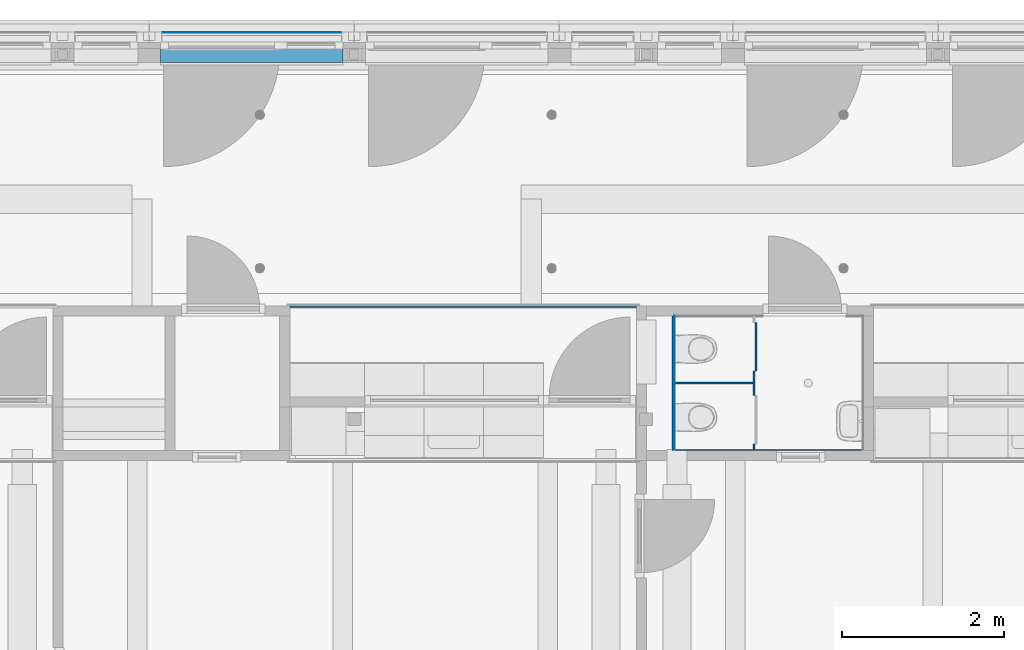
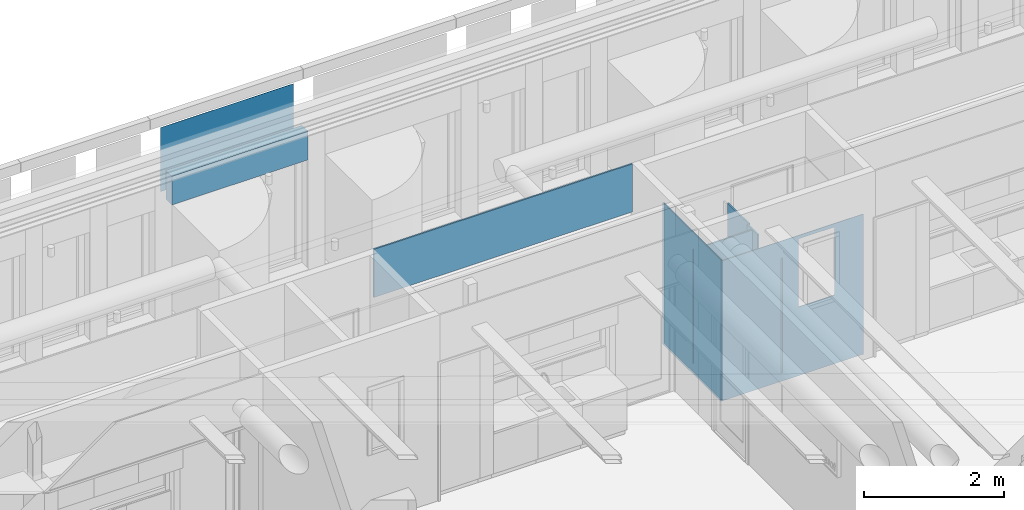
# One storey, part 50 of 128: 10 walls, 2 openings.
"""IFC2X3 building model written with IfcOpenShell, lengths in millimetres."""

from ifc_helpers import new_model, entity, si_unit, converted_unit, derived_unit, direction, frame, frame_2d, origin, origin_2d_with_axis, place, context, subcontext, project, spatial, rectangle, extrude, material, layer, layer_set, layer_usage, type_object, element, save


model = new_model("IFC2X3")

# Units and contexts
model_context = context("Model", 3, precision=0.01, world=origin(), true_north=direction((6.123031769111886e-17, 1.0)))
body_context = subcontext(model_context, "Body", "Model", "MODEL_VIEW")
ifc_project = project(units=[si_unit("LENGTHUNIT", "METRE", prefix="MILLI"), si_unit("AREAUNIT", "SQUARE_METRE"), si_unit("VOLUMEUNIT", "CUBIC_METRE"), converted_unit("PLANEANGLEUNIT", "DEGREE", entity("IfcRatioMeasure", 0.017453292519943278), si_unit("PLANEANGLEUNIT", "RADIAN"), dimensions=[0, 0, 0, 0, 0, 0, 0]), si_unit("MASSUNIT", "GRAM", prefix="KILO"), derived_unit("MASSDENSITYUNIT", [(si_unit("MASSUNIT", "GRAM", prefix="KILO"), 1), (si_unit("LENGTHUNIT", "METRE"), -3)]), derived_unit("IONCONCENTRATIONUNIT", [(si_unit("MASSUNIT", "GRAM", prefix="KILO"), 1), (si_unit("LENGTHUNIT", "METRE"), -3)]), derived_unit("MOMENTOFINERTIAUNIT", [(si_unit("LENGTHUNIT", "METRE"), 4)]), si_unit("TIMEUNIT", "SECOND"), si_unit("FREQUENCYUNIT", "HERTZ"), si_unit("THERMODYNAMICTEMPERATUREUNIT", "DEGREE_CELSIUS"), derived_unit("THERMALTRANSMITTANCEUNIT", [(si_unit("MASSUNIT", "GRAM", prefix="KILO"), 1), (si_unit("THERMODYNAMICTEMPERATUREUNIT", "KELVIN"), -1), (si_unit("TIMEUNIT", "SECOND"), -3)]), derived_unit("THERMALCONDUCTANCEUNIT", [(si_unit("MASSUNIT", "GRAM", prefix="KILO"), 1), (si_unit("THERMODYNAMICTEMPERATUREUNIT", "KELVIN"), -1), (si_unit("TIMEUNIT", "SECOND"), -3), (si_unit("LENGTHUNIT", "METRE"), 1)]), derived_unit("VOLUMETRICFLOWRATEUNIT", [(si_unit("LENGTHUNIT", "METRE"), 3), (si_unit("TIMEUNIT", "SECOND"), -1)]), derived_unit("MASSFLOWRATEUNIT", [(si_unit("MASSUNIT", "GRAM", prefix="KILO"), 1), (si_unit("TIMEUNIT", "SECOND"), -1)]), derived_unit("ROTATIONALFREQUENCYUNIT", [(si_unit("TIMEUNIT", "SECOND"), -1)]), si_unit("ELECTRICCURRENTUNIT", "AMPERE"), si_unit("ELECTRICVOLTAGEUNIT", "VOLT"), si_unit("POWERUNIT", "WATT"), si_unit("FORCEUNIT", "NEWTON", prefix="KILO"), si_unit("ILLUMINANCEUNIT", "LUX"), si_unit("LUMINOUSFLUXUNIT", "LUMEN"), si_unit("LUMINOUSINTENSITYUNIT", "CANDELA"), derived_unit("USERDEFINED", [(si_unit("MASSUNIT", "GRAM", prefix="KILO"), -1), (si_unit("LENGTHUNIT", "METRE"), -2), (si_unit("TIMEUNIT", "SECOND"), 3), (si_unit("LUMINOUSFLUXUNIT", "LUMEN"), 1)]), derived_unit("USERDEFINED", [(si_unit("MASSUNIT", "GRAM", prefix="KILO"), 1), (si_unit("TIMEUNIT", "SECOND"), -3), (si_unit("LENGTHUNIT", "METRE"), 3), (si_unit("ELECTRICCURRENTUNIT", "AMPERE"), -2)]), derived_unit("SOUNDPOWERUNIT", [(si_unit("MASSUNIT", "GRAM", prefix="KILO"), 1), (si_unit("TIMEUNIT", "SECOND"), -3), (si_unit("LENGTHUNIT", "METRE"), 2)]), derived_unit("SOUNDPRESSUREUNIT", [(si_unit("MASSUNIT", "GRAM", prefix="KILO"), 1), (si_unit("LENGTHUNIT", "METRE"), -1), (si_unit("TIMEUNIT", "SECOND"), -2)]), derived_unit("LINEARVELOCITYUNIT", [(si_unit("LENGTHUNIT", "METRE"), 1), (si_unit("TIMEUNIT", "SECOND"), -1)]), si_unit("PRESSUREUNIT", "PASCAL"), derived_unit("USERDEFINED", [(si_unit("MASSUNIT", "GRAM", prefix="KILO"), 1), (si_unit("LENGTHUNIT", "METRE"), -2), (si_unit("TIMEUNIT", "SECOND"), -2)]), derived_unit("LINEARFORCEUNIT", [(si_unit("MASSUNIT", "GRAM", prefix="KILO"), 1), (si_unit("TIMEUNIT", "SECOND"), -2)]), derived_unit("PLANARFORCEUNIT", [(si_unit("MASSUNIT", "GRAM", prefix="KILO"), 1), (si_unit("LENGTHUNIT", "METRE"), -1), (si_unit("TIMEUNIT", "SECOND"), -2)]), derived_unit("SPECIFICHEATCAPACITYUNIT", [(si_unit("THERMODYNAMICTEMPERATUREUNIT", "KELVIN"), -1), (si_unit("LENGTHUNIT", "METRE"), 2), (si_unit("TIMEUNIT", "SECOND"), -2)]), derived_unit("HEATINGVALUEUNIT", [(si_unit("LENGTHUNIT", "METRE"), 2), (si_unit("TIMEUNIT", "SECOND"), -2)]), derived_unit("VAPORPERMEABILITYUNIT", [(si_unit("LENGTHUNIT", "METRE"), -1), (si_unit("TIMEUNIT", "SECOND"), 1)]), derived_unit("DYNAMICVISCOSITYUNIT", [(si_unit("MASSUNIT", "GRAM", prefix="KILO"), 1), (si_unit("TIMEUNIT", "SECOND"), -1), (si_unit("LENGTHUNIT", "METRE"), -1)]), derived_unit("THERMALEXPANSIONCOEFFICIENTUNIT", [(si_unit("THERMODYNAMICTEMPERATUREUNIT", "KELVIN"), -1)]), derived_unit("MODULUSOFELASTICITYUNIT", [(si_unit("MASSUNIT", "GRAM", prefix="KILO"), 1), (si_unit("LENGTHUNIT", "METRE"), -1), (si_unit("TIMEUNIT", "SECOND"), -2)]), derived_unit("ISOTHERMALMOISTURECAPACITYUNIT", [(si_unit("LENGTHUNIT", "METRE"), 3), (si_unit("MASSUNIT", "GRAM", prefix="KILO"), -1)]), derived_unit("MOISTUREDIFFUSIVITYUNIT", [(si_unit("TIMEUNIT", "SECOND"), -1), (si_unit("LENGTHUNIT", "METRE"), 2)])], contexts=[model_context])

# Site, building, storey
site_placement = place(None, frame((0.0, 300.0, 0.0)))
site = spatial("IfcSite", under=ifc_project, at=site_placement, Name="<Kadastrale nummers>", CompositionType="ELEMENT")
building_placement = place(site_placement, origin())
building = spatial("IfcBuilding", under=site, at=building_placement, CompositionType="ELEMENT")
storey_placement = place(building_placement, frame((0.0, 0.0, 3560.0000331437)))
storey = spatial("IfcBuildingStorey", under=building, at=storey_placement, Name="01 eerste verdieping", CompositionType="ELEMENT", Elevation=3560.0000331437)

# Walls
ifc_material_1 = material(Name="ISR_Gips")
ifc_layer_1 = layer(ifc_material_1, 1.0)
ifc_material_2 = material(Name="ISR_Binnenwand")
ifc_layer_2 = layer(ifc_material_2, 23.0)
ifc_layer_3 = layer(ifc_material_1, 1.0)
ifc_layer_set_1 = layer_set([ifc_layer_1, ifc_layer_2, ifc_layer_3], Name="Basic Wall:22_DAT_binnenwand_25")
ifc_layer_usage_1 = layer_usage(ifc_layer_set_1, "AXIS2", "NEGATIVE", 12.499999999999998)
wall_type_1 = type_object("IfcWallType", Name="Basic Wall:22_DAT_binnenwand_25", PredefinedType="STANDARD", material=ifc_layer_set_1)
wall_1_placement = place(storey_placement, frame((20205.0, 46687.49999999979, 2490.000024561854)))
element("IfcWallStandardCase", 1, at=wall_1_placement, inside=storey, type_object=wall_type_1, material=ifc_layer_usage_1, Name="Basic Wall:22_DAT_binnenwand_25", ObjectType="Basic Wall:22_DAT_binnenwand_25", context=body_context, shape_type="SweptSolid", body=[
    extrude(rectangle(XDim=4274.999999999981, YDim=24.999999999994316, at=frame_2d((2137.4999999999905, -6.217248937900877e-14), x_axis=(-1.0, 0.0))), origin(), (0.0, 0.0, 1.0), 839.9999773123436),
])
ifc_layer_usage_2 = layer_usage(ifc_layer_set_1, "AXIS2", "POSITIVE", -12.499999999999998)
wall_2_placement = place(storey_placement, frame((24932.500000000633, 46575.0, 90.00000187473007), z_axis=(0.0, 0.0, 1.0), x_axis=(0.0, -1.0, 0.0)))
element("IfcWallStandardCase", 2, at=wall_2_placement, inside=storey, type_object=wall_type_1, material=ifc_layer_usage_2, Name="Basic Wall:22_DAT_binnenwand_25", ObjectType="Basic Wall:22_DAT_binnenwand_25", context=body_context, shape_type="SweptSolid", body=[
    extrude(rectangle(XDim=1659.9999999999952, YDim=25.00000000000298, at=frame_2d((829.9999999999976, -1.270095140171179e-13), x_axis=(-1.0, 0.0))), origin(), (0.0, 0.0, 1.0), 2470.0000226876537),
])
ifc_material_3 = material(Name="ISR_Kunststof_grijs")
ifc_layer_4 = layer(ifc_material_3, 25.0)
ifc_layer_set_2 = layer_set([ifc_layer_4], Name="Basic Wall:43_DAT_sanitairewand")
ifc_layer_usage_3 = layer_usage(ifc_layer_set_2, "AXIS2", "POSITIVE", -12.500000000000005)
wall_type_2 = type_object("IfcWallType", Name="Basic Wall:43_DAT_sanitairewand", PredefinedType="STANDARD", material=ifc_layer_set_2)
wall_3_placement = place(storey_placement, frame((24945.0, 45745.0, 240.00000187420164)))
element("IfcWallStandardCase", 3, at=wall_3_placement, inside=storey, type_object=wall_type_2, material=ifc_layer_usage_3, Name="Basic Wall:43_DAT_sanitairewand", ObjectType="Basic Wall:43_DAT_sanitairewand", context=body_context, shape_type="SweptSolid", body=[
    extrude(rectangle(XDim=975.0000000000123, YDim=24.999999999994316, at=frame_2d((487.50000000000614, -6.465938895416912e-13), x_axis=(-1.0, 0.0))), origin(), (0.0, 0.0, 1.0), 2000.0000000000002),
])
wall_4_placement = place(storey_placement, frame((25932.4999999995, 45895.0, 240.00000187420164), z_axis=(0.0, 0.0, 1.0), x_axis=(0.0, -1.0, 0.0)))
element("IfcWallStandardCase", 4, at=wall_4_placement, inside=storey, type_object=wall_type_2, material=ifc_layer_usage_3, Name="Basic Wall:43_DAT_sanitairewand", ObjectType="Basic Wall:43_DAT_sanitairewand", context=body_context, shape_type="SweptSolid", body=[
    extrude(rectangle(XDim=300.0000000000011, YDim=25.000000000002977, at=frame_2d((150.00000000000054, -7.229772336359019e-13), x_axis=(-1.0, 0.0))), origin(), (0.0, 0.0, 1.0), 2000.0000000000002),
])
wall_5_placement = place(storey_placement, frame((25932.499999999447, 44995.0, 240.00000187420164), z_axis=(0.0, 0.0, 1.0), x_axis=(0.0, -1.0, 0.0)))
element("IfcWallStandardCase", 5, at=wall_5_placement, inside=storey, type_object=wall_type_2, material=ifc_layer_usage_3, Name="Basic Wall:43_DAT_sanitairewand", ObjectType="Basic Wall:43_DAT_sanitairewand", context=body_context, shape_type="SweptSolid", body=[
    extrude(rectangle(XDim=79.99999999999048, YDim=25.000000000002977, at=frame_2d((39.99999999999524, 7.283063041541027e-13), x_axis=(-1.0, 0.0))), origin(), (0.0, 0.0, 1.0), 2000.0000000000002),
])
wall_6_placement = place(storey_placement, frame((25957.499999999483, 46495.0, 240.00000187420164), z_axis=(0.0, 0.0, 1.0), x_axis=(0.0, -1.0, 0.0)))
element("IfcWallStandardCase", 6, at=wall_6_placement, inside=storey, type_object=wall_type_2, material=ifc_layer_usage_3, Name="Basic Wall:43_DAT_sanitairewand", ObjectType="Basic Wall:43_DAT_sanitairewand", context=body_context, shape_type="SweptSolid", body=[
    extrude(rectangle(XDim=600.0000000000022, YDim=25.00000000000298, at=frame_2d((300.0000000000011, 7.212008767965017e-13), x_axis=(-1.0, 0.0))), origin(), (0.0, 0.0, 1.0), 2000.0000000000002),
])
ifc_material_4 = material(Name="STAAL_RAL 7006")
ifc_layer_5 = layer(ifc_material_4, 2.0)
ifc_layer_set_3 = layer_set([ifc_layer_5], Name="Basic Wall:21_DAT_zetwerk_2")
ifc_layer_usage_4 = layer_usage(ifc_layer_set_3, "AXIS2", "NEGATIVE", 1.000000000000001)
wall_type_3 = type_object("IfcWallType", Name="Basic Wall:21_DAT_zetwerk_2", PredefinedType="STANDARD", material=ifc_layer_set_3)
wall_7_placement = place(storey_placement, frame((18638.0, 50071.0, 2829.9999668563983)))
element("IfcWallStandardCase", 7, at=wall_7_placement, inside=storey, type_object=wall_type_3, material=ifc_layer_usage_4, Name="Basic Wall:21_DAT_zetwerk_2", ObjectType="Basic Wall:21_DAT_zetwerk_2", context=body_context, shape_type="SweptSolid", body=[
    extrude(rectangle(XDim=2194.0000000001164, YDim=1.9999999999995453, at=frame_2d((1097.0000000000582, 1.4378498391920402e-12), x_axis=(-1.0, 0.0))), origin(), (0.0, 0.0, 1.0), 1120.0000000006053),
])
ifc_layer_6 = layer(ifc_material_1, 12.5)
ifc_layer_7 = layer(ifc_material_1, 12.5)
ifc_material_5 = material(Name="ISR_Dak_isolatie(198)")
ifc_layer_8 = layer(ifc_material_5, 140.0)
ifc_material_6 = material(Name="ISR_Multiplex")
ifc_layer_9 = layer(ifc_material_6, 10.0)
ifc_layer_set_4 = layer_set([ifc_layer_6, ifc_layer_7, ifc_layer_8, ifc_layer_9], Name="Basic Wall:21_DAT_Hekwerk 175")
ifc_layer_usage_5 = layer_usage(ifc_layer_set_4, "AXIS2", "POSITIVE", -87.5)
wall_type_4 = type_object("IfcWallType", Name="Basic Wall:21_DAT_Hekwerk 175", PredefinedType="STANDARD", material=ifc_layer_set_4)
wall_8_placement = place(storey_placement, frame((18610.0, 49787.5000000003, 2830.0)))
element("IfcWallStandardCase", 8, at=wall_8_placement, inside=storey, type_object=wall_type_4, material=ifc_layer_usage_5, Name="Basic Wall:21_DAT_Hekwerk 175", ObjectType="Basic Wall:21_DAT_Hekwerk 175", context=body_context, shape_type="SweptSolid", body=[
    extrude(rectangle(XDim=2249.999999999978, YDim=174.99999999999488, at=frame_2d((1124.999999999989, 1.5702994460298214e-12), x_axis=(-1.0, 0.0))), origin(), (0.0, 0.0, 1.0), 500.00003087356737),
])

# Wall, opening
ifc_material_7 = material(Name="ISR_Tegels_grijs_150x150")
ifc_layer_10 = layer(ifc_material_7, 10.0)
ifc_layer_set_5 = layer_set([ifc_layer_10], Name="Basic Wall:43_DAT_Wandtegelwerk")
ifc_layer_usage_6 = layer_usage(ifc_layer_set_5, "AXIS2", "NEGATIVE", 5.0)
wall_type_5 = type_object("IfcWallType", Name="Basic Wall:43_DAT_Wandtegelwerk", PredefinedType="STANDARD", material=ifc_layer_set_5)
wall_9_placement = place(storey_placement, frame((27280.0, 44920.0, 90.00000187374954), z_axis=(0.0, 0.0, 1.0), x_axis=(-1.0, 0.0, 0.0)))
wall_9 = element("IfcWallStandardCase", 9, at=wall_9_placement, inside=storey, type_object=wall_type_5, material=ifc_layer_usage_6, Name="Basic Wall:43_DAT_Wandtegelwerk", ObjectType="Basic Wall:43_DAT_Wandtegelwerk", context=body_context, shape_type="SweptSolid", body=[
    extrude(rectangle(XDim=2334.999999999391, YDim=9.999999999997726, at=frame_2d((1167.4999999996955, 0.0), x_axis=(-1.0, 0.0))), origin(), (0.0, 0.0, 1.0), 2450.000022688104),
])
opening_1_placement = place(wall_9_placement, origin())
element("IfcOpeningElement", 10, at=opening_1_placement, cuts=wall_9, Name="Basic Wall:43_DAT_Wandtegelwerk", ObjectType="Opening", context=body_context, shape_type="SweptSolid", body=[
    extrude(rectangle(XDim=1190.0000000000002, YDim=600.0000000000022, at=origin_2d_with_axis()), frame((775.0, -157.39999999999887, 1795.0), z_axis=(0.0, 1.0, 0.0), x_axis=(0.0, 0.0, 1.0)), (0.0, 0.0, 1.0), 314.79999999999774),
])

wall_10_placement = place(storey_placement, frame((24950.0, 44925.0, 90.00000187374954), z_axis=(0.0, 0.0, 1.0), x_axis=(0.0, 1.0, 0.0)))
wall_10 = element("IfcWallStandardCase", 11, at=wall_10_placement, inside=storey, type_object=wall_type_5, material=ifc_layer_usage_6, Name="Basic Wall:43_DAT_Wandtegelwerk", ObjectType="Basic Wall:43_DAT_Wandtegelwerk", context=body_context, shape_type="SweptSolid", body=[
    extrude(rectangle(XDim=1649.9999999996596, YDim=9.999999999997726, at=frame_2d((824.9999999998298, 0.0), x_axis=(-1.0, 0.0))), origin(), (0.0, 0.0, 1.0), 2450.000022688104),
])
opening_2_placement = place(storey_placement, frame((24950.0, 44925.0, 90.00000187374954), z_axis=(0.0, 0.0, 1.0), x_axis=(0.0, 1.0, 0.0)))
element("IfcOpeningElement", 12, at=opening_2_placement, cuts=wall_10, Name="Basic Wall:43_DAT_Wandtegelwerk:1", ObjectType="Opening", context=body_context, shape_type="SweptSolid", body=[
    extrude(rectangle(XDim=10.000000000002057, YDim=25.000000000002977, at=frame_2d((1.451039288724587e-10, -4.331646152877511e-12), x_axis=(1.0, 0.0))), frame((820.0, 0.0, 150.0), z_axis=(0.0, 0.0, 1.0), x_axis=(0.0, -1.0, 0.0)), (0.0, 0.0, 1.0), 2000.0000000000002),
])

save(model, "model.ifc")
